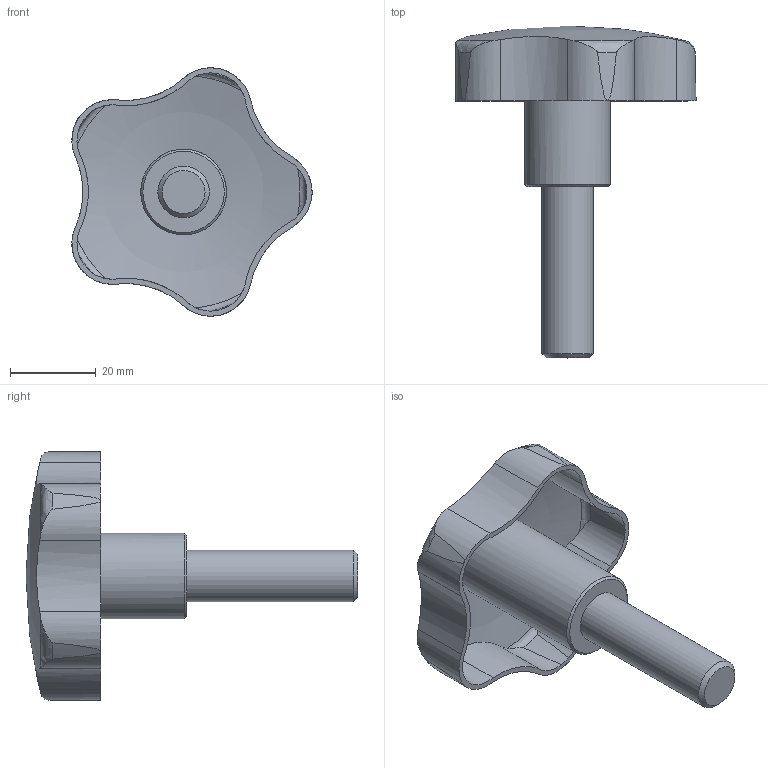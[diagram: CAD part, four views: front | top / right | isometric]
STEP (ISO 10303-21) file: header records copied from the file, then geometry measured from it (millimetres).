
FILE_DESCRIPTION( ( 'STEP AP203' ), '1' );
FILE_NAME( 'C:/Temp/Ganter_Step_05_03_2020/data/2_2/gn_5334_4/gn5334_4_2/Stainless Steel-Star knob with threaded bolt AISI 316L (A4) GN 5334.4-60-M12-40.stp', '2020-03-05T12:08:36', ( 'License CC BY-ND 4.0' ), ( 'CADENAS' ), ' ', 'PARTsolutions', ' ' );
FILE_SCHEMA( ( 'CONFIG_CONTROL_DESIGN' ) );
Length unit declared in the file: millimetre
Products named in the file (1): _Stainless Steel-Star knob with threaded bolt AISI 316L (A4) GN 5334.4-60-M12-40
Bounding box: 56.08 x 77.5 x 57.99 mm (x, y, z)
Volume: 21513.8 mm3; surface area: 13171.3 mm2
Topology: 1 solids, 1 shells, 59 faces, 160 edges, 104 vertices
Faces by surface type: cylinder 32, cone 12, torus 10, plane 3, sphere 2
Full cylindrical faces by diameter (mm): 12 x1, 20 x1
Entity records: 2446 total; most frequent: CARTESIAN_POINT 1037, ORIENTED_EDGE 302, DIRECTION 262, EDGE_CURVE 151, AXIS2_PLACEMENT_3D 121, VERTEX_POINT 102, B_SPLINE_CURVE_WITH_KNOTS 70, EDGE_LOOP 66
